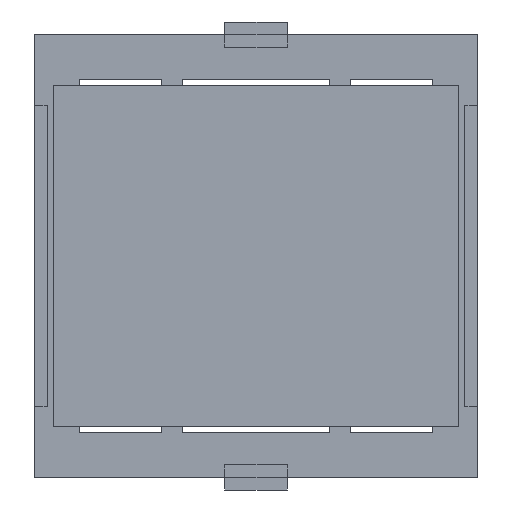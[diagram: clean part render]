
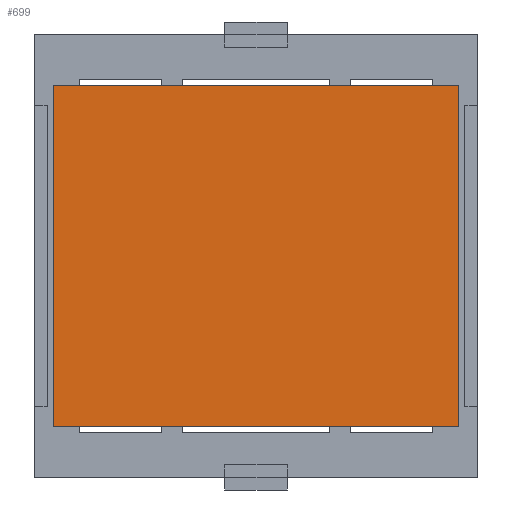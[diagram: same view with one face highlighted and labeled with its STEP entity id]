
A CAD part, front view. The second image highlights one B-rep face of the part: STEP entity #699.
In plain terms, the highlighted planar face has unit normal (0, -1, 0).
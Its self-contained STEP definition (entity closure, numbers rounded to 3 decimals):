
#45 = EDGE_LOOP ( 'NONE', ( #1363, #5354, #5533, #3597 ) ) ;
#105 = VERTEX_POINT ( 'NONE', #3068 ) ;
#111 = VERTEX_POINT ( 'NONE', #1167 ) ;
#294 = LINE ( 'NONE', #5553, #3060 ) ;
#699 = ADVANCED_FACE ( 'NONE', ( #2971 ), #2466, .F. ) ;
#833 = CARTESIAN_POINT ( 'NONE',  ( -16.129, -0.127, -13.589 ) ) ;
#847 = DIRECTION ( 'NONE',  ( 1., 0., 0. ) ) ;
#1096 = VECTOR ( 'NONE', #1616, 1000. ) ;
#1167 = CARTESIAN_POINT ( 'NONE',  ( 16.129, -0.127, 13.589 ) ) ;
#1213 = VERTEX_POINT ( 'NONE', #4993 ) ;
#1332 = EDGE_CURVE ( 'NONE', #105, #6157, #294, .T. ) ;
#1363 = ORIENTED_EDGE ( 'NONE', *, *, #3552, .F. ) ;
#1616 = DIRECTION ( 'NONE',  ( 0., 0., -1. ) ) ;
#1665 = DIRECTION ( 'NONE',  ( 0., 0., 1. ) ) ;
#2351 = CARTESIAN_POINT ( 'NONE',  ( -16.129, -0.127, 13.589 ) ) ;
#2466 = PLANE ( 'NONE',  #3443 ) ;
#2580 = DIRECTION ( 'NONE',  ( -1., 0., 0. ) ) ;
#2606 = VECTOR ( 'NONE', #847, 1000. ) ;
#2792 = CARTESIAN_POINT ( 'NONE',  ( -16.129, -0.127, 13.589 ) ) ;
#2971 = FACE_OUTER_BOUND ( 'NONE', #45, .T. ) ;
#3060 = VECTOR ( 'NONE', #2580, 1000. ) ;
#3068 = CARTESIAN_POINT ( 'NONE',  ( 16.129, -0.127, -13.589 ) ) ;
#3443 = AXIS2_PLACEMENT_3D ( 'NONE', #2792, #5836, #5370 ) ;
#3552 = EDGE_CURVE ( 'NONE', #6157, #1213, #5124, .T. ) ;
#3597 = ORIENTED_EDGE ( 'NONE', *, *, #5335, .F. ) ;
#3731 = LINE ( 'NONE', #2351, #2606 ) ;
#3990 = CARTESIAN_POINT ( 'NONE',  ( 16.129, -0.127, -13.589 ) ) ;
#4384 = CARTESIAN_POINT ( 'NONE',  ( -16.129, -0.127, -13.589 ) ) ;
#4993 = CARTESIAN_POINT ( 'NONE',  ( -16.129, -0.127, 13.589 ) ) ;
#5124 = LINE ( 'NONE', #833, #5862 ) ;
#5335 = EDGE_CURVE ( 'NONE', #1213, #111, #3731, .T. ) ;
#5354 = ORIENTED_EDGE ( 'NONE', *, *, #1332, .F. ) ;
#5370 = DIRECTION ( 'NONE',  ( 0., 0., 1. ) ) ;
#5475 = LINE ( 'NONE', #3990, #1096 ) ;
#5521 = EDGE_CURVE ( 'NONE', #111, #105, #5475, .T. ) ;
#5533 = ORIENTED_EDGE ( 'NONE', *, *, #5521, .F. ) ;
#5553 = CARTESIAN_POINT ( 'NONE',  ( -16.129, -0.127, -13.589 ) ) ;
#5836 = DIRECTION ( 'NONE',  ( 0., 1., 0. ) ) ;
#5862 = VECTOR ( 'NONE', #1665, 1000. ) ;
#6157 = VERTEX_POINT ( 'NONE', #4384 ) ;
